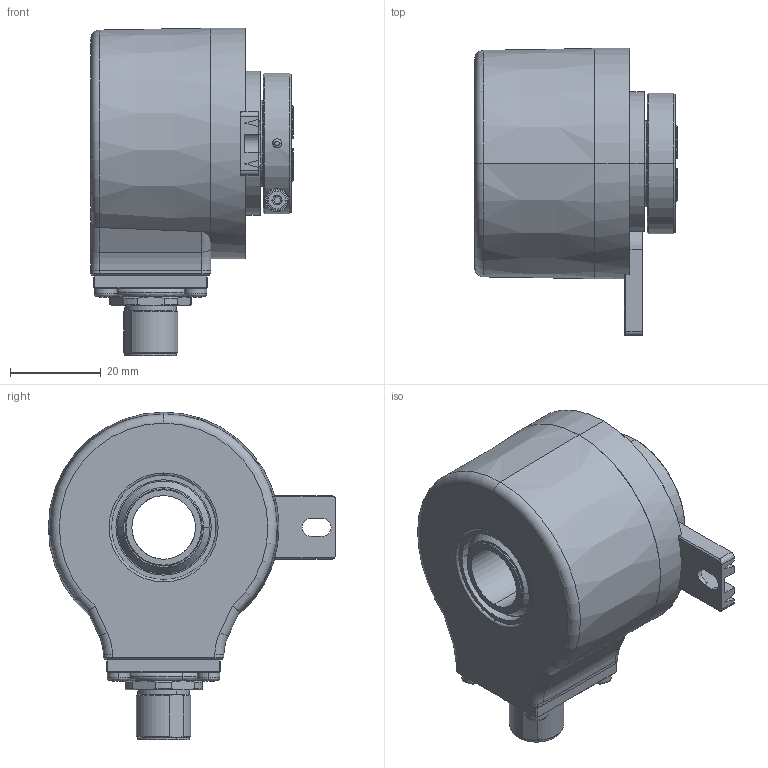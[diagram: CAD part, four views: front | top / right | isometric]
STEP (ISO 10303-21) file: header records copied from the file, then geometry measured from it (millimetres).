
FILE_DESCRIPTION (( 'STEP AP203' ), '1' );
FILE_NAME ('8.5020.2A7R.XXXX.STEP', '2017-04-05T11:39:41', ( '' ), ( '' ), 'SwSTEP 2.0', 'SolidWorks 2017', '' );
FILE_SCHEMA (( 'CONFIG_CONTROL_DESIGN' ));
Length unit declared in the file: millimetre
Products named in the file (1): 8.5020.2A7R.XXXX
Bounding box: 44.7 x 63.3 x 72.2 mm (x, y, z)
Surface area: 38949.9 mm2 (no closed solid volume)
Topology: 0 solids, 24 shells, 813 faces, 1995 edges, 1229 vertices
Faces by surface type: plane 285, cylinder 245, cone 140, torus 69, sphere 48, bspline 26
Entity records: 25706 total; most frequent: CARTESIAN_POINT 6839, DIRECTION 4114, ORIENTED_EDGE 3766, EDGE_CURVE 1891, AXIS2_PLACEMENT_3D 1662, VERTEX_POINT 1175, EDGE_LOOP 944, CIRCLE 874
